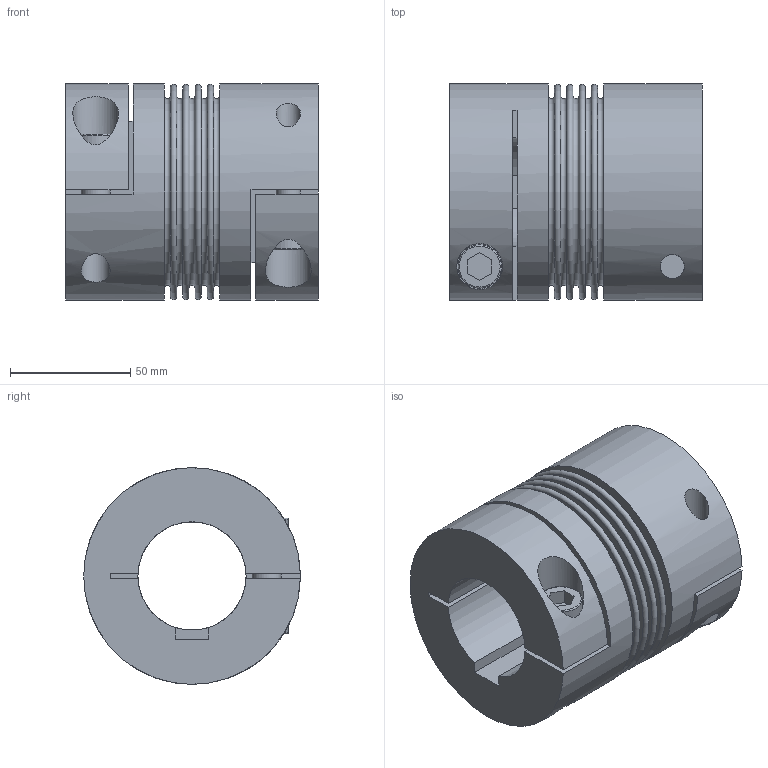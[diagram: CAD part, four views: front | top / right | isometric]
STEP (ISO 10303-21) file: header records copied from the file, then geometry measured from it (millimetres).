
FILE_DESCRIPTION(/* description */ ('STEP AP203'),/* implementation_level */ '2;1');
FILE_NAME(/* name */ 'C:\Diequa Files\DieQua Coupling\Website Step Files\BC.200.105.#.#.stp',/* time_stamp */ '2020-02-17T09:46:19-06:00',/* author */ ('DiequaCAD'),/* organization */ (''),/* preprocessor_version */ 'ST-DEVELOPER v18',/* originating_system */ 'Autodesk Inventor 2020',/* authorisation */ ' ');
FILE_SCHEMA (('AUTOMOTIVE_DESIGN { 1 0 10303 214 3 1 1 }'));
Length unit declared in the file: millimetre
Products named in the file (1): BC.200.105.#.#
Bounding box: 105 x 90 x 90 mm (x, y, z)
Volume: 391425 mm3; surface area: 90584.2 mm2
Topology: 1 solids, 1 shells, 80 faces, 198 edges, 138 vertices
Faces by surface type: plane 54, cylinder 15, torus 11
Full cylindrical faces by diameter (mm): 10 x2, 12 x2, 18 x2, 19 x2, 74 x1, 90 x2
Entity records: 2622 total; most frequent: CARTESIAN_POINT 567, DIRECTION 439, ORIENTED_EDGE 396, EDGE_CURVE 198, AXIS2_PLACEMENT_3D 166, VERTEX_POINT 138, LINE 107, VECTOR 107
